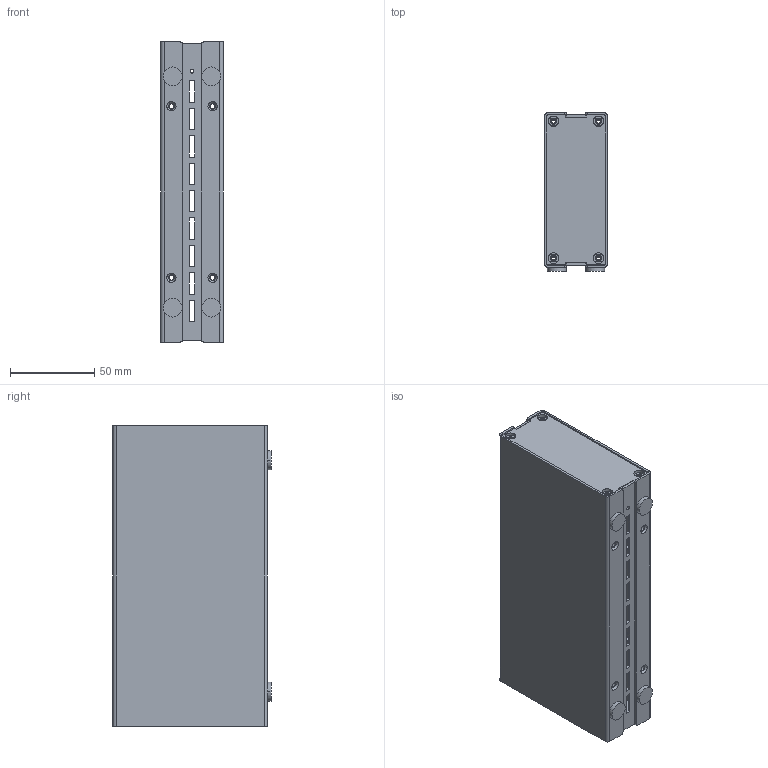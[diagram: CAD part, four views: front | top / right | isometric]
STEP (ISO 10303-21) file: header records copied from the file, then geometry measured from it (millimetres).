
FILE_DESCRIPTION((''),'2;1');
FILE_NAME('ASM_SIM_MODULE_GENERIC_ASM','2022-05-16T09:48:30',('gaw'),(''),'CREO PARAMETRIC BY PTC INC, 2021164','CREO PARAMETRIC BY PTC INC, 2021164','');
FILE_SCHEMA(('CONFIG_CONTROL_DESIGN'));
Length unit declared in the file: inch
Products named in the file (6): COVER_MODULE_SKIN; BRACKET_TOP_BOTTOM; PANEL_FRONT_GENERIC; PANEL_REAR_GENERIC; FOOT_RUBBER; ASM_SIM_MODULE_GENERIC_ASM
Assembly tree (10 placements, depth 2):
  ASM_SIM_MODULE_GENERIC_ASM
    COVER_MODULE_SKIN  x2
    BRACKET_TOP_BOTTOM  x2
    PANEL_FRONT_GENERIC
    PANEL_REAR_GENERIC
    FOOT_RUBBER  x4
Bounding box: 37.08 x 93.88 x 177.8 mm (x, y, z)
Volume: 79276.3 mm3; surface area: 121106 mm2
Topology: 10 solids, 18 shells, 704 faces, 1942 edges, 1288 vertices
Faces by surface type: plane 344, cylinder 332, cone 20, bspline 8
Entity records: 12934 total; most frequent: CARTESIAN_POINT 2302, DIRECTION 2264, ORIENTED_EDGE 2132, EDGE_CURVE 1074, AXIS2_PLACEMENT_3D 796, VERTEX_POINT 712, VECTOR 672, LINE 672
